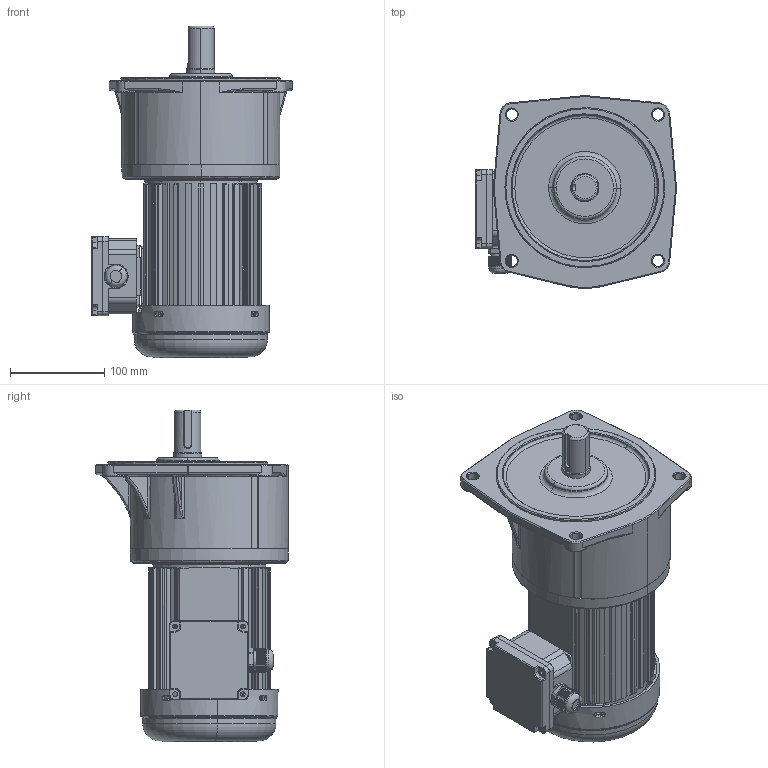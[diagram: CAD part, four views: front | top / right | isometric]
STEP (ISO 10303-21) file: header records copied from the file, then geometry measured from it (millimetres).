
FILE_DESCRIPTION (( 'STEP AP203' ), '1' );
FILE_NAME ('400W配3#立式.STEP', '2019-06-14T07:28:06', ( '微软中国' ), ( '微软用户' ), 'SwSTEP 2.0', 'SolidWorks 2012', '' );
FILE_SCHEMA (( 'CONFIG_CONTROL_DESIGN' ));
Products named in the file (10): 400W饜3#蕾宒; 3#蕾宒熬厒ん; 3xg400w; 400W瑞欶; 釱菜; 綴傷裔 2_2; 坶踡ん 蚾饜; 蜊輛綴諉盄碟裔; 呿蹋諉盄碟; 儂褲 2_2
Assembly tree (9 placements, depth 2):
  400W饜3#蕾宒
    儂褲 2_2
    呿蹋諉盄碟
    蜊輛綴諉盄碟裔
    坶踡ん 蚾饜
    綴傷裔 2_2
    釱菜
    400W瑞欶
    3xg400w
    3#蕾宒熬厒ん
Bounding box: 213.83 x 204.98 x 352.64 mm (x, y, z)
Volume: 2964240.2 mm3; surface area: 567276.1 mm2
Topology: 8 solids, 10 shells, 2630 faces, 6835 edges, 4299 vertices
Faces by surface type: cylinder 965, plane 717, bspline 593, torus 205, cone 142, sphere 8
Entity records: 114198 total; most frequent: CARTESIAN_POINT 51895, ORIENTED_EDGE 13624, DIRECTION 11875, EDGE_CURVE 6814, AXIS2_PLACEMENT_3D 4552, VERTEX_POINT 4305, EDGE_LOOP 3025, LINE 2771
